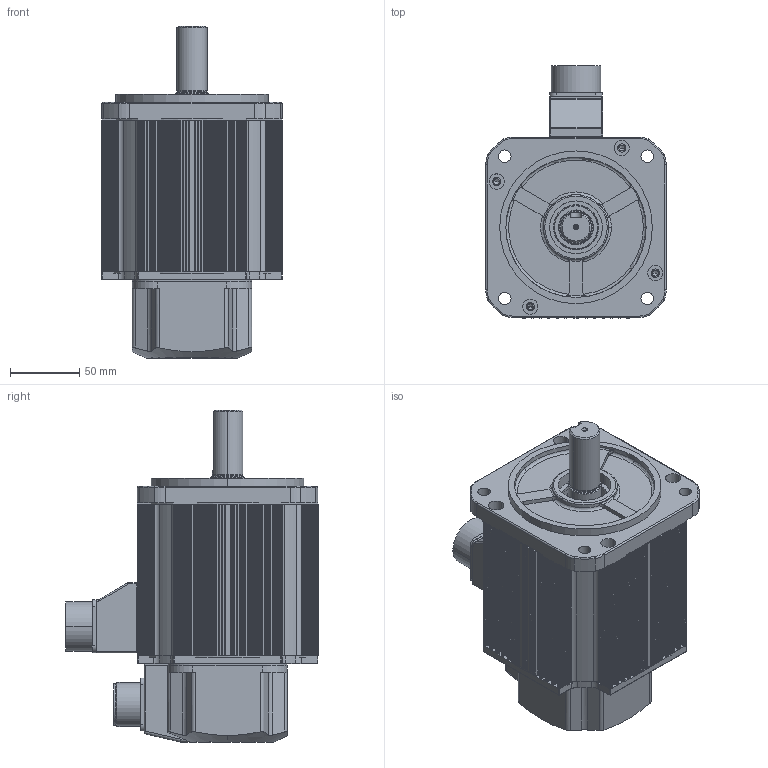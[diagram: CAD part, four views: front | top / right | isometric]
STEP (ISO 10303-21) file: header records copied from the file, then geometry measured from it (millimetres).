
FILE_DESCRIPTION (( 'STEP AP214' ), '1' );
FILE_NAME ('KAND-10B¡à1B2.STEP', '2026-09-12T01:30:15', ( '' ), ( '' ), 'SwSTEP 2.0', 'SolidWorks 2023', '' );
FILE_SCHEMA (( 'AUTOMOTIVE_DESIGN' ));
Length unit declared in the file: millimetre
Products named in the file (11): 10050523 GASKET_돌출형; □130 FLANGE; □130 BRACKET_BR; MS3102A 20_표준; 1005052200 ENCODER COVER; 10050511 RUBBER SEAL_MS20; □130-109mm; MS3102A 20-29P; 10050579 CONNECTOR BOX_MS20; Ø22-KEY8X41; KAND-10B□1B2
Assembly tree (10 placements, depth 2):
  KAND-10B□1B2
    □130-109mm
    □130 FLANGE
    □130 BRACKET_BR
    1005052200 ENCODER COVER
    10050523 GASKET_돌출형
    10050579 CONNECTOR BOX_MS20
    10050511 RUBBER SEAL_MS20
    MS3102A 20-29P
    MS3102A 20_표준
    Ø22-KEY8X41
Bounding box: 130 x 181.75 x 239.2 mm (x, y, z)
Volume: 640944.6 mm3; surface area: 338838.1 mm2
Topology: 10 solids, 10 shells, 2467 faces, 6843 edges, 4423 vertices
Faces by surface type: plane 1163, cylinder 970, torus 185, bspline 83, cone 56, sphere 10
Entity records: 82901 total; most frequent: CARTESIAN_POINT 18568, ORIENTED_EDGE 13558, DIRECTION 13550, EDGE_CURVE 6779, AXIS2_PLACEMENT_3D 4761, VERTEX_POINT 4423, LINE 4028, VECTOR 4028
